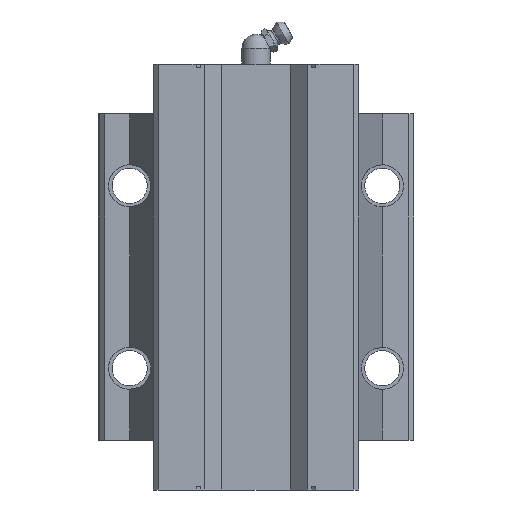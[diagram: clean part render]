
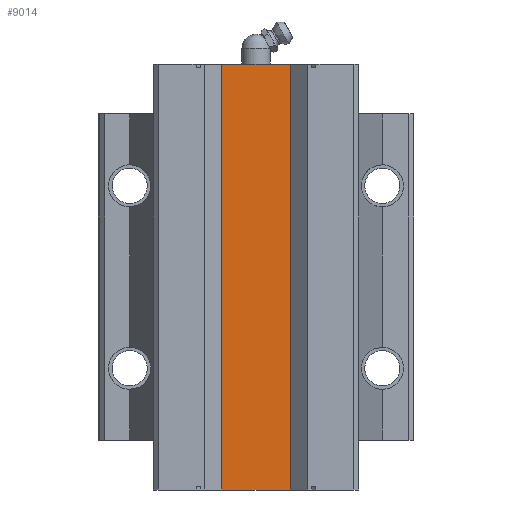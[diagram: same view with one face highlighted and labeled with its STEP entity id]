
A CAD part, front view. The second image highlights one B-rep face of the part: STEP entity #9014.
In plain terms, the highlighted planar face has unit normal (0, -1, 0).
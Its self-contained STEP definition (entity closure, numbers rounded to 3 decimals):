
#49 = VECTOR ( 'NONE', #3461, 1000. ) ;
#159 = VERTEX_POINT ( 'NONE', #6820 ) ;
#165 = VERTEX_POINT ( 'NONE', #2657 ) ;
#427 = EDGE_CURVE ( 'NONE', #5739, #165, #2222, .T. ) ;
#1391 = DIRECTION ( 'NONE',  ( 1., 0., 0. ) ) ;
#1641 = ORIENTED_EDGE ( 'NONE', *, *, #6748, .F. ) ;
#1871 = CARTESIAN_POINT ( 'NONE',  ( 9.695, 20.5, -57.15 ) ) ;
#2222 = LINE ( 'NONE', #1871, #49 ) ;
#2386 = VECTOR ( 'NONE', #1391, 1000. ) ;
#2657 = CARTESIAN_POINT ( 'NONE',  ( 9.695, 20.5, 60.7 ) ) ;
#2766 = DIRECTION ( 'NONE',  ( 1., 0., 0. ) ) ;
#2904 = LINE ( 'NONE', #6361, #2386 ) ;
#3023 = CARTESIAN_POINT ( 'NONE',  ( 9.695, 20.5, -60.7 ) ) ;
#3286 = LINE ( 'NONE', #4147, #6924 ) ;
#3461 = DIRECTION ( 'NONE',  ( 0., 0., 1. ) ) ;
#4147 = CARTESIAN_POINT ( 'NONE',  ( -9.695, 20.5, -57.15 ) ) ;
#4504 = ORIENTED_EDGE ( 'NONE', *, *, #8674, .F. ) ;
#4636 = ORIENTED_EDGE ( 'NONE', *, *, #427, .T. ) ;
#4922 = AXIS2_PLACEMENT_3D ( 'NONE', #6901, #7723, #2766 ) ;
#4951 = FACE_OUTER_BOUND ( 'NONE', #9578, .T. ) ;
#5147 = CARTESIAN_POINT ( 'NONE',  ( 9.695, 20.5, -60.7 ) ) ;
#5739 = VERTEX_POINT ( 'NONE', #5147 ) ;
#6085 = PLANE ( 'NONE',  #4922 ) ;
#6352 = VERTEX_POINT ( 'NONE', #8187 ) ;
#6361 = CARTESIAN_POINT ( 'NONE',  ( 9.695, 20.5, 60.7 ) ) ;
#6748 = EDGE_CURVE ( 'NONE', #6352, #165, #2904, .T. ) ;
#6820 = CARTESIAN_POINT ( 'NONE',  ( -9.695, 20.5, -60.7 ) ) ;
#6901 = CARTESIAN_POINT ( 'NONE',  ( 9.695, 20.5, -57.15 ) ) ;
#6924 = VECTOR ( 'NONE', #9904, 1000. ) ;
#7548 = LINE ( 'NONE', #3023, #9975 ) ;
#7723 = DIRECTION ( 'NONE',  ( 0., 1., 0. ) ) ;
#7983 = EDGE_CURVE ( 'NONE', #159, #6352, #3286, .T. ) ;
#8187 = CARTESIAN_POINT ( 'NONE',  ( -9.695, 20.5, 60.7 ) ) ;
#8674 = EDGE_CURVE ( 'NONE', #5739, #159, #7548, .T. ) ;
#8924 = ORIENTED_EDGE ( 'NONE', *, *, #7983, .F. ) ;
#9014 = ADVANCED_FACE ( 'NONE', ( #4951 ), #6085, .F. ) ;
#9578 = EDGE_LOOP ( 'NONE', ( #4636, #1641, #8924, #4504 ) ) ;
#9626 = DIRECTION ( 'NONE',  ( -1., 0., 0. ) ) ;
#9904 = DIRECTION ( 'NONE',  ( 0., 0., 1. ) ) ;
#9975 = VECTOR ( 'NONE', #9626, 1000. ) ;
